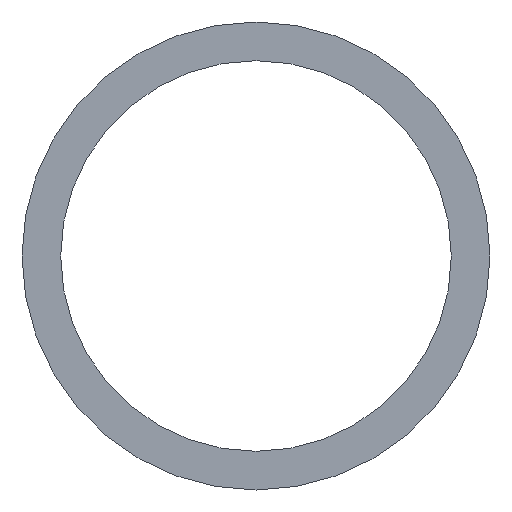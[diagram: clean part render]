
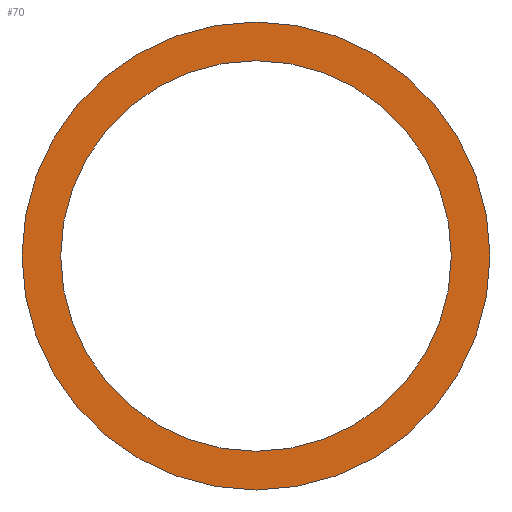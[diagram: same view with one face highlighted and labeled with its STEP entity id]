
A CAD part, front view. The second image highlights one B-rep face of the part: STEP entity #70.
In plain terms, the highlighted planar face has unit normal (0, -1, 0).
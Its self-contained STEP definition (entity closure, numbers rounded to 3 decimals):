
#31 = VERTEX_POINT('',#32);
#32 = CARTESIAN_POINT('',(0.,-27.95,205.863));
#38 = EDGE_CURVE('',#31,#31,#39,.T.);
#39 = CIRCLE('',#40,37.088);
#40 = AXIS2_PLACEMENT_3D('',#41,#42,#43);
#41 = CARTESIAN_POINT('',(0.,-27.95,168.775));
#42 = DIRECTION('',(0.,1.,0.));
#43 = DIRECTION('',(0.,0.,1.));
#70 = ADVANCED_FACE('',(#71,#74),#85,.F.);
#71 = FACE_BOUND('',#72,.F.);
#72 = EDGE_LOOP('',(#73));
#73 = ORIENTED_EDGE('',*,*,#38,.T.);
#74 = FACE_BOUND('',#75,.F.);
#75 = EDGE_LOOP('',(#76));
#76 = ORIENTED_EDGE('',*,*,#77,.F.);
#77 = EDGE_CURVE('',#78,#78,#80,.T.);
#78 = VERTEX_POINT('',#79);
#79 = CARTESIAN_POINT('',(0.,-27.95,199.735));
#80 = CIRCLE('',#81,30.96);
#81 = AXIS2_PLACEMENT_3D('',#82,#83,#84);
#82 = CARTESIAN_POINT('',(0.,-27.95,168.775));
#83 = DIRECTION('',(0.,1.,0.));
#84 = DIRECTION('',(0.,0.,1.));
#85 = PLANE('',#86);
#86 = AXIS2_PLACEMENT_3D('',#87,#88,#89);
#87 = CARTESIAN_POINT('',(0.,-27.95,168.775));
#88 = DIRECTION('',(0.,1.,0.));
#89 = DIRECTION('',(0.,0.,1.));
